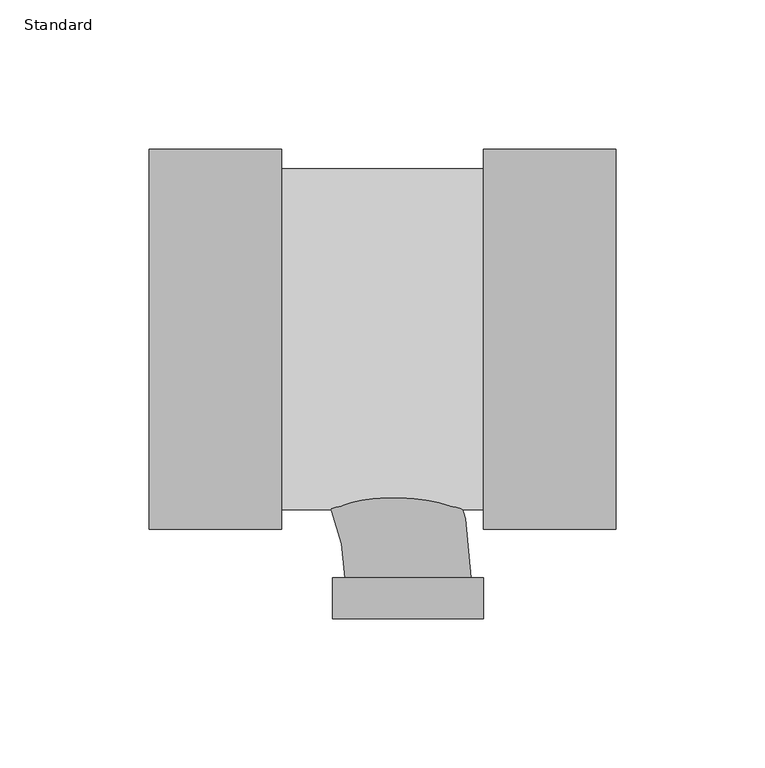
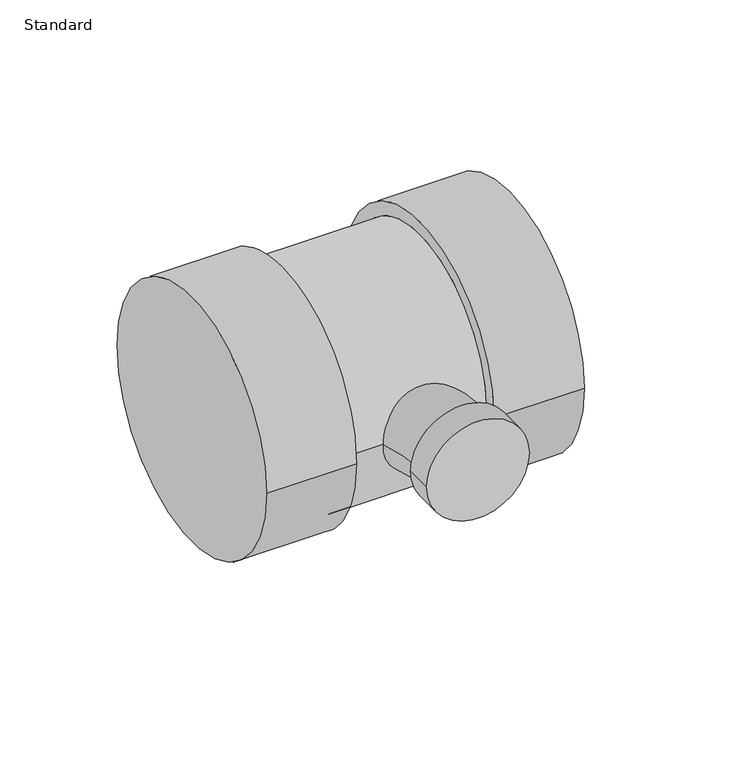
"""IFC4 building model written with IfcOpenShell, lengths in millimetres: pipe fitting geometry, EG-RCAN Té sanitaire de réduction - PVC - Nom. 40 - DWV : Standard."""

from ifc_helpers import new_model, si_unit, point, frame, origin, place, context, project, spatial, circle_curve, ellipse_curve, trimmed, source, transform, mapped, element, save
from ifc_brep_helpers import plane_surface, cylinder_surface, revolved_surface, advanced_brep


def standard_230664cc(model_context):
    return source(origin(), model_context, "Body", "AdvancedBrep", [
        advanced_brep(
        [(25.2669651, -63.754, 0.0), (25.2669651, 63.754, 0.0), (25.2669651, -57.15, 0.0), (25.2669651, 57.15, 0.0), (69.7169651, -63.754, 0.0), (69.7169651, 63.754, 0.0), (-42.4599062, 57.15, 0.0), (-42.4599062, -57.15, 0.0), (-86.9099063, -63.754, 0.0), (-86.9099062, 63.754, 0.0), (-42.4599063, -63.754, 0.0), (-42.4599062, 63.754, 0.0)],
        [
            (0, 1, circle_curve(frame((25.2669651, 0.0, 0.0), z_axis=(-1.0, 0.0, 0.0), x_axis=(0.0, 1.0, 0.0)), 63.754)),
            (1, 0, circle_curve(frame((25.2669651, 0.0, 0.0), z_axis=(-1.0, 0.0, 0.0), x_axis=(0.0, 1.0, 0.0)), 63.754)),
            (2, 3, circle_curve(frame((25.2669651, 0.0, 0.0), z_axis=(1.0, 0.0, 0.0), x_axis=(0.0, 0.0, -1.0)), 57.15)),
            (3, 2, circle_curve(frame((25.2669651, 0.0, 0.0), z_axis=(1.0, 0.0, 0.0), x_axis=(0.0, 0.0, 1.0)), 57.15)),
            (4, 5, circle_curve(frame((69.7169651, 0.0, 0.0), z_axis=(1.0, 0.0, 0.0), x_axis=(0.0, 1.0, 0.0)), 63.754)),
            (5, 4, circle_curve(frame((69.7169651, 0.0, 0.0), z_axis=(1.0, 0.0, 0.0), x_axis=(0.0, 1.0, 0.0)), 63.754)),
            (0, 4),
            (5, 1),
            (6, 3),
            (2, 7),
            (7, 6, circle_curve(frame((-42.4599063, 0.0, 0.0), z_axis=(1.0, 0.0, 0.0), x_axis=(0.0, 0.0, -1.0)), 57.15)),
            (6, 7, circle_curve(frame((-42.4599062, 0.0, 0.0), z_axis=(1.0, 0.0, 0.0), x_axis=(0.0, 0.0, 1.0)), 57.15)),
            (8, 9, circle_curve(frame((-86.9099062, 0.0, 0.0), z_axis=(-1.0, 0.0, 0.0), x_axis=(0.0, 1.0, 0.0)), 63.754)),
            (9, 8, circle_curve(frame((-86.9099062, 0.0, 0.0), z_axis=(-1.0, 0.0, 0.0), x_axis=(0.0, 1.0, 0.0)), 63.754)),
            (10, 11, circle_curve(frame((-42.4599062, 0.0, 0.0), z_axis=(1.0, 0.0, 0.0), x_axis=(0.0, 1.0, 0.0)), 63.754)),
            (11, 10, circle_curve(frame((-42.4599062, 0.0, 0.0), z_axis=(1.0, 0.0, 0.0), x_axis=(0.0, 1.0, 0.0)), 63.754)),
            (8, 10),
            (11, 9),
        ],
        [
            plane_surface(frame((25.2669651, 0.0, 0.0), z_axis=(-1.0, 0.0, 0.0), x_axis=(0.0, 0.0, 1.0))),
            plane_surface(frame((69.7169651, 0.0, 0.0), z_axis=(1.0, 0.0, 0.0), x_axis=(0.0, 0.0, 1.0))),
            cylinder_surface(frame((25.2669651, 0.0, 0.0), z_axis=(-1.0, 0.0, 0.0), x_axis=(0.0, 1.0, 0.0)), 63.754),
            cylinder_surface(frame((-42.4599062, 0.0, 0.0), z_axis=(1.0, 0.0, 0.0), x_axis=(0.0, 0.0, -1.0)), 57.15),
            cylinder_surface(frame((-42.4599062, 0.0, 0.0), z_axis=(1.0, 0.0, 0.0), x_axis=(0.0, 0.0, 1.0)), 57.15),
            plane_surface(frame((-86.9099062, 0.0, 0.0), z_axis=(-1.0, 0.0, 0.0), x_axis=(0.0, 0.0, 1.0))),
            plane_surface(frame((-42.4599062, 0.0, 0.0), z_axis=(1.0, 0.0, 0.0), x_axis=(0.0, 0.0, 1.0))),
            cylinder_surface(frame((-86.9099062, 0.0, 0.0), z_axis=(-1.0, 0.0, 0.0), x_axis=(0.0, 1.0, 0.0)), 63.754),
        ],
        [
            (0, [[1, 2], [3, 4]]),
            (1, [[5, 6]]),
            (2, [[-1, 7, -6, 8]]),
            (2, [[-2, -8, -5, -7]]),
            (3, [[9, -3, 10, 11]]),
            (4, [[-9, 12, -10, -4]]),
            (5, [[13, 14]]),
            (6, [[15, 16], [-11, -12]]),
            (7, [[-13, 17, -16, 18]]),
            (7, [[-14, -18, -15, -17]]),
        ],
    ),
        advanced_brep(
        [(-25.2672537, -80.0276107, 0.0), (25.2669651, -80.0277018, 0.0), (21.2039182, -80.0276945, 0.0), (-21.2042068, -80.027618, 0.0), (-25.2672784, -93.7679232, 0.0), (25.2669403, -93.7680143, 0.0), (-80.0276562, -21.2040625, 0.0), (-80.0276562, 21.2040625, 0.0)],
        [
            (0, 1, circle_curve(frame((-0.0001443, -80.0276562, 0.0), z_axis=(1.8029679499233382e-06, 0.9999999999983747, 0.0), x_axis=(0.9999999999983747, -1.8029679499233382e-06, 0.0)), 25.2671094)),
            (1, 0, circle_curve(frame((-0.0001443, -80.0276562, 0.0), z_axis=(1.8029679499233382e-06, 0.9999999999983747, 0.0), x_axis=(0.9999999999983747, -1.8029679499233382e-06, 0.0)), 25.2671094)),
            (2, 3, circle_curve(frame((-0.0001443, -80.0276562, 0.0), z_axis=(-1.8029679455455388e-06, -0.9999999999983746, 0.0), x_axis=(0.9999999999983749, -1.8029679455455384e-06, 0.0)), 21.2040625)),
            (3, 2, circle_curve(frame((-0.0001443, -80.0276562, 0.0), z_axis=(-1.8029679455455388e-06, -0.9999999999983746, 0.0), x_axis=(0.9999999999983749, -1.8029679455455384e-06, 0.0)), 21.2040625)),
            (4, 5, circle_curve(frame((-0.0001691, -93.7679687, 0.0), z_axis=(-1.8029679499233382e-06, -0.9999999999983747, 0.0), x_axis=(0.9999999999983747, -1.8029679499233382e-06, 0.0)), 25.2671094)),
            (5, 4, circle_curve(frame((-0.0001691, -93.7679687, 0.0), z_axis=(-1.8029679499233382e-06, -0.9999999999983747, 0.0), x_axis=(0.9999999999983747, -1.8029679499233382e-06, 0.0)), 25.2671094)),
            (0, 4),
            (5, 1),
            (6, 7, circle_curve(frame((-80.0276562, 0.0, 0.0), z_axis=(-1.0000000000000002, 0.0, 0.0), x_axis=(0.0, 1.0, 0.0)), 21.2040625)),
            (7, 6, circle_curve(frame((-80.0276562, 0.0, 0.0), z_axis=(-1.0000000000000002, 0.0, 0.0), x_axis=(0.0, 1.0, 0.0)), 21.2040625)),
            (6, 3, circle_curve(frame((-80.0276562, -80.027512, 0.0), z_axis=(0.0, 0.0, -1.0), x_axis=(0.0, 1.0, 0.0)), 58.8234495)),
            (2, 7, circle_curve(frame((-80.0276562, -80.027512, 0.0), z_axis=(0.0, 0.0, 1.0), x_axis=(0.0, 1.0, 0.0)), 101.2315745)),
        ],
        [
            plane_surface(frame((-0.0001443, -80.0276562, 0.0), z_axis=(1.8029679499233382e-06, 0.9999999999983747, 0.0), x_axis=(0.0, 0.0, 1.0))),
            plane_surface(frame((-0.0001691, -93.7679687, 0.0), z_axis=(-1.8029679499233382e-06, -0.9999999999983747, 0.0), x_axis=(0.0, 0.0, 1.0))),
            cylinder_surface(frame((-0.0001443, -80.0276562, 0.0), z_axis=(1.8029679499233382e-06, 0.9999999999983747, 0.0), x_axis=(0.9999999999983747, -1.8029679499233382e-06, 0.0)), 25.2671094),
            plane_surface(frame((-80.0276562, 0.0, 0.0), z_axis=(-1.0, 0.0, 0.0), x_axis=(0.0, 0.0, 1.0))),
            revolved_surface(trimmed(ellipse_curve(frame((-80.0276562, 0.0, 0.0), z_axis=(-1.0000000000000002, 0.0, 0.0), x_axis=(0.0, 1.0, 0.0)), 21.2040625, 21.2040625), [point((-80.0276562, -21.2040625, 0.0))], [point((-80.0276562, 21.2040625, 0.0))], True, "CARTESIAN"), (-80.0276562, -80.027512, 0.0), (0.0, 0.0, -1.0000000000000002)),
            revolved_surface(trimmed(ellipse_curve(frame((-80.0276562, 0.0, 0.0), z_axis=(-1.0000000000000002, 0.0, 0.0), x_axis=(0.0, 1.0, 0.0)), 21.2040625, 21.2040625), [point((-80.0276562, 21.2040625, 0.0))], [point((-80.0276562, -21.2040625, 0.0))], True, "CARTESIAN"), (-80.0276562, -80.027512, 0.0), (0.0, 0.0, -1.0000000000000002)),
        ],
        [
            (0, [[1, 2], [3, 4]]),
            (1, [[5, 6]]),
            (2, [[-1, 7, -6, 8]]),
            (2, [[-2, -8, -5, -7]]),
            (3, [[9, 10]]),
            (4, [[-9, 11, -3, 12]]),
            (5, [[-10, -12, -4, -11]]),
        ],
    ),
    ])


if __name__ == "__main__":
    model = new_model("IFC4")
    model_context = context("Model", 3, world=origin())
    ifc_project = project(units=[si_unit("LENGTHUNIT", "METRE", prefix="MILLI")], contexts=[model_context])
    site = spatial("IfcSite", under=ifc_project)
    building = spatial("IfcBuilding", under=site)
    placement = place(None, origin())
    standard_shape = standard_230664cc(model_context)
    element("IfcPipeFitting", 1, ObjectType="EG-RCAN Té sanitaire de réduction - PVC - Nom. 40 - DWV : Standard", at=placement, inside=building, context=model_context, shape_type="MappedRepresentation", body=[
        mapped(standard_shape, transform((0.0, 0.0, 0.0), x_axis=(1.0, 0.0, 0.0), y_axis=(0.0, 1.0, 0.0), z_axis=(0.0, 0.0, 1.0))),
    ])
    save(model, "model.ifc")
